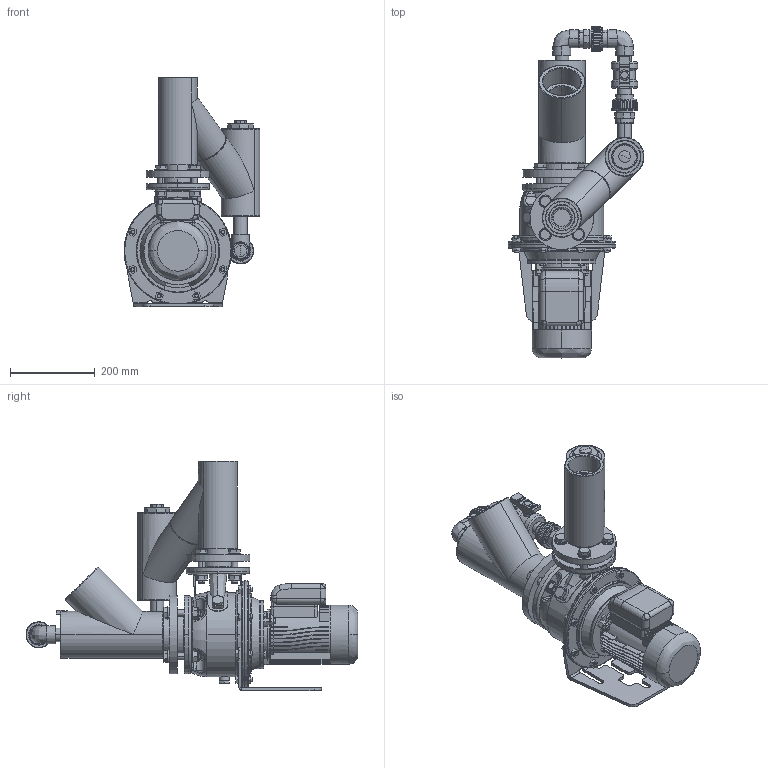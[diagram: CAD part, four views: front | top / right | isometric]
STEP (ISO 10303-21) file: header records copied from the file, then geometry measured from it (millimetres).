
FILE_DESCRIPTION (( 'STEP AP203' ), '1' );
FILE_NAME ('Lowara SHE 40-160 z.a.z handbed. by-pass.STEP', '2011-04-06T10:05:13', ( '' ), ( '' ), 'SwSTEP 2.0', 'SolidWorks 2010', '' );
FILE_SCHEMA (( 'CONFIG_CONTROL_DESIGN' ));
Length unit declared in the file: millimetre
Products named in the file (1): Lowara SHE 40-160 z.a.z handbed. by-pass
Bounding box: 320.91 x 783.44 x 541.48 mm (x, y, z)
Volume: 13886449.5 mm3; surface area: 1962362.3 mm2
Topology: 64 solids, 66 shells, 2618 faces, 6598 edges, 4112 vertices
Faces by surface type: plane 994, cylinder 836, cone 386, bspline 380, torus 22
Entity records: 103584 total; most frequent: CARTESIAN_POINT 43472, ORIENTED_EDGE 12982, DIRECTION 12077, EDGE_CURVE 6491, AXIS2_PLACEMENT_3D 4742, VERTEX_POINT 4112, EDGE_LOOP 2891, FACE_OUTER_BOUND 2618
